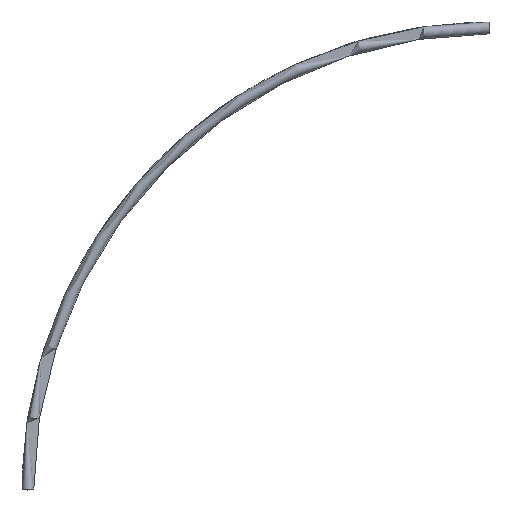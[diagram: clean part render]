
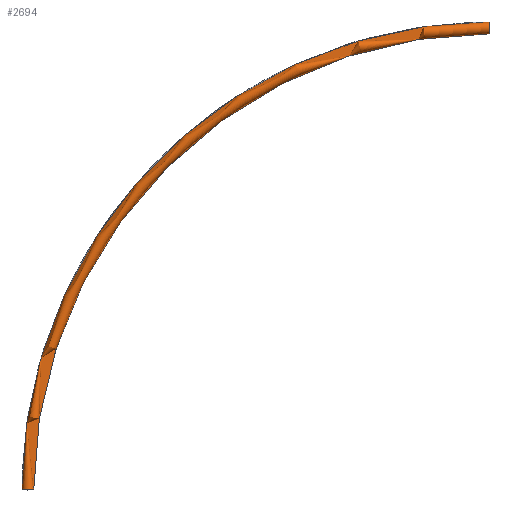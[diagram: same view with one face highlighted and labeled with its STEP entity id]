
A CAD part, top view. The second image highlights one B-rep face of the part: STEP entity #2694.
In plain terms, the highlighted toroidal (fillet/blend) face has major radius 1975 mm and minor radius 25 mm.
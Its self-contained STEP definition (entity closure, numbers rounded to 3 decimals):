
#2048 = CARTESIAN_POINT ( 'NONE',  ( 0., 1950., 0. ) ) ;
#2076 = CARTESIAN_POINT ( 'NONE',  ( 0., 2000., 0. ) ) ;
#2132 = DIRECTION ( 'NONE',  ( 0., 0., 1. ) ) ;
#2133 = DIRECTION ( 'NONE',  ( 1., 0., 0. ) ) ;
#2134 = CARTESIAN_POINT ( 'NONE',  ( 0., 1975., 0. ) ) ;
#2135 = AXIS2_PLACEMENT_3D ( 'NONE', #2134, #2133, #2132 ) ;
#2136 = CIRCLE ( 'NONE', #2135, 25. ) ;
#2138 = CARTESIAN_POINT ( 'NONE',  ( -2000., 0., 0. ) ) ;
#2139 = DIRECTION ( 'NONE',  ( 0., 0., 1. ) ) ;
#2141 = DIRECTION ( 'NONE',  ( 0., 1., 0. ) ) ;
#2142 = CARTESIAN_POINT ( 'NONE',  ( -1975., 0., 0. ) ) ;
#2143 = AXIS2_PLACEMENT_3D ( 'NONE', #2142, #2141, #2139 ) ;
#2144 = CIRCLE ( 'NONE', #2143, 25. ) ;
#2145 = DIRECTION ( 'NONE',  ( 1., 0., 0. ) ) ;
#2146 = DIRECTION ( 'NONE',  ( 0., 0., 1. ) ) ;
#2147 = CARTESIAN_POINT ( 'NONE',  ( 0., 0., 0. ) ) ;
#2148 = AXIS2_PLACEMENT_3D ( 'NONE', #2147, #2146, #2145 ) ;
#2149 = DIRECTION ( 'NONE',  ( 1., 0., 0. ) ) ;
#2150 = DIRECTION ( 'NONE',  ( 0., 0., 1. ) ) ;
#2151 = AXIS2_PLACEMENT_3D ( 'NONE', #2153, #2150, #2149 ) ;
#2152 = CIRCLE ( 'NONE', #2148, 2000. ) ;
#2153 = CARTESIAN_POINT ( 'NONE',  ( 0., 0., 0. ) ) ;
#2154 = TOROIDAL_SURFACE ( 'NONE', #2151, 1975., 25. ) ;
#2155 = FACE_OUTER_BOUND ( 'NONE', #2688, .T. ) ;
#2195 = DIRECTION ( 'NONE',  ( 1., 0., 0. ) ) ;
#2196 = DIRECTION ( 'NONE',  ( 0., 0., 1. ) ) ;
#2197 = CARTESIAN_POINT ( 'NONE',  ( 0., 0., 0. ) ) ;
#2198 = AXIS2_PLACEMENT_3D ( 'NONE', #2197, #2196, #2195 ) ;
#2199 = CIRCLE ( 'NONE', #2198, 1950. ) ;
#2204 = CARTESIAN_POINT ( 'NONE',  ( -1950., 0., 0. ) ) ;
#2397 = VERTEX_POINT ( 'NONE', #2048 ) ;
#2551 = ORIENTED_EDGE ( 'NONE', *, *, #2689, .F. ) ;
#2664 = VERTEX_POINT ( 'NONE', #2076 ) ;
#2688 = EDGE_LOOP ( 'NONE', ( #2551, #2703, #2701, #2702 ) ) ;
#2689 = EDGE_CURVE ( 'NONE', #2664, #2397, #2136, .T. ) ;
#2694 = ADVANCED_FACE ( 'NONE', ( #2155 ), #2154, .T. ) ;
#2695 = EDGE_CURVE ( 'NONE', #2664, #2697, #2152, .T. ) ;
#2696 = EDGE_CURVE ( 'NONE', #2697, #2699, #2144, .T. ) ;
#2697 = VERTEX_POINT ( 'NONE', #2138 ) ;
#2699 = VERTEX_POINT ( 'NONE', #2204 ) ;
#2701 = ORIENTED_EDGE ( 'NONE', *, *, #2696, .T. ) ;
#2702 = ORIENTED_EDGE ( 'NONE', *, *, #2704, .F. ) ;
#2703 = ORIENTED_EDGE ( 'NONE', *, *, #2695, .T. ) ;
#2704 = EDGE_CURVE ( 'NONE', #2397, #2699, #2199, .T. ) ;
